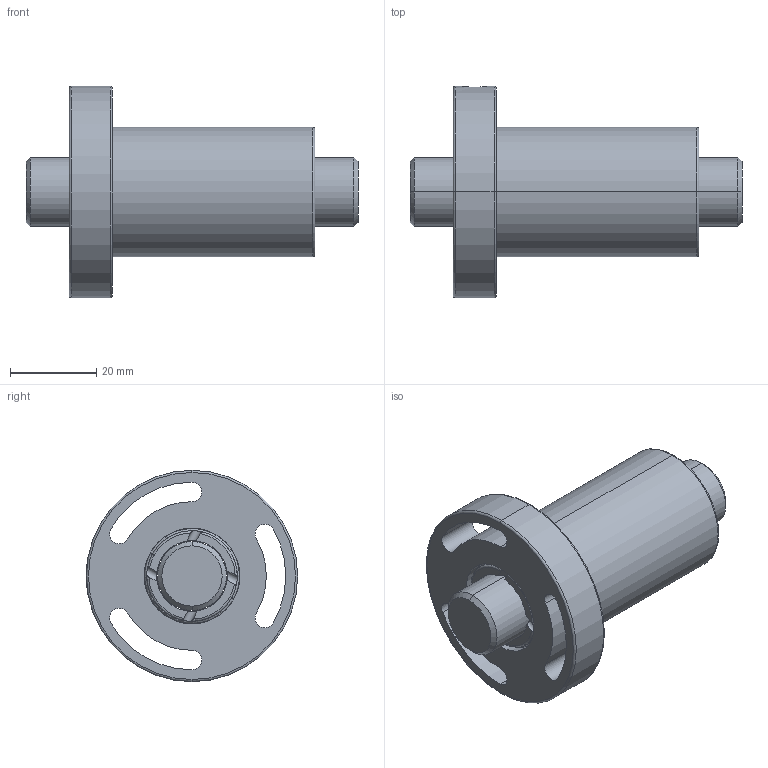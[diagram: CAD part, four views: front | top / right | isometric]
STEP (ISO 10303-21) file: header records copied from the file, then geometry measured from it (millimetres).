
FILE_DESCRIPTION (( 'STEP AP203' ), '1' );
FILE_NAME ('SFCR01610T3-C.STEP', '2020-06-18T01:48:49', ( '' ), ( '' ), 'SwSTEP 2.0', 'SolidWorks 2013', '' );
FILE_SCHEMA (( 'CONFIG_CONTROL_DESIGN' ));
Length unit declared in the file: millimetre
Products named in the file (1): SFCR01610T3-C
Bounding box: 77 x 49 x 49 mm (x, y, z)
Volume: 50081.8 mm3; surface area: 19546.6 mm2
Topology: 2 solids, 2 shells, 103 faces, 259 edges, 162 vertices
Faces by surface type: cylinder 56, torus 24, plane 18, cone 4, bspline 1
Entity records: 4225 total; most frequent: CARTESIAN_POINT 1659, DIRECTION 542, ORIENTED_EDGE 518, EDGE_CURVE 259, AXIS2_PLACEMENT_3D 239, VERTEX_POINT 162, CIRCLE 136, EDGE_LOOP 117
